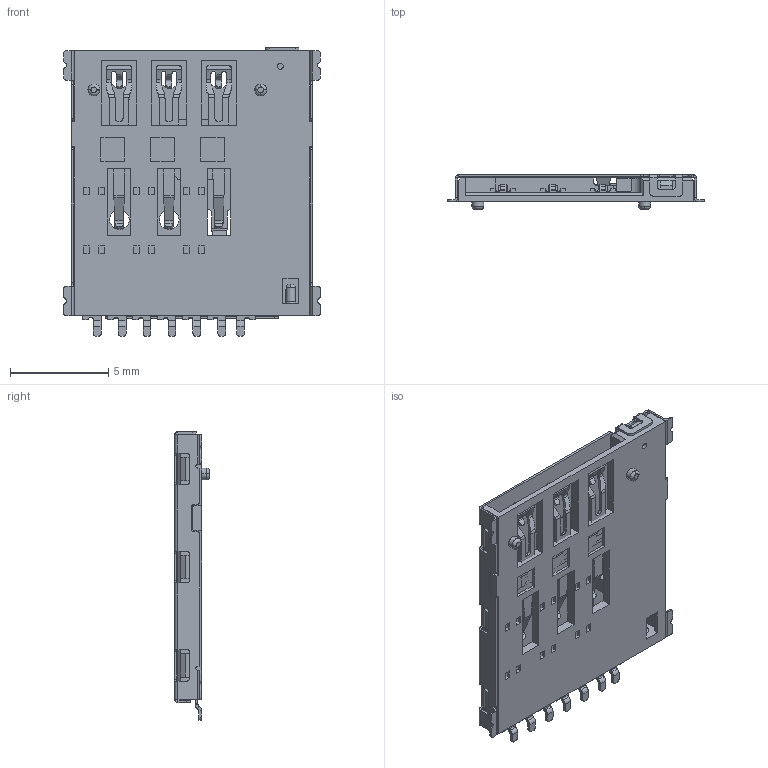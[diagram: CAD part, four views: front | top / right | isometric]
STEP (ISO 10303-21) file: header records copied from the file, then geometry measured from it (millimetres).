
FILE_DESCRIPTION(('CATIA V5 STEP Exchange'),'2;1');
FILE_NAME('F:\REF\特图电子-单阳光\2D\05-Sim Card\SIM CARD套用新图框\3D\sim-card_1050625ar003.stp','2021-09-27T09:44:13+00:00',('none'),('none'),'CATIA Version 5 Release 17 (IN-10)','CATIA V5 STEP AP203','none');
FILE_SCHEMA(('CONFIG_CONTROL_DESIGN'));
Length unit declared in the file: millimetre
Products named in the file (2): NANO_SIM_ASM; DUANZI_ASM
Assembly tree (14 placements, depth 3):
  NANO_SIM_ASM
    #56
    #14029
    #21652
    DUANZI_ASM
      #23957  x3
      #28168  x3
      #30314  x3
      #30647
Bounding box: 13.09 x 1.77 x 14.7 mm (x, y, z)
Volume: 103.3 mm3; surface area: 980.6 mm2
Topology: 14 solids, 14 shells, 1280 faces, 3321 edges, 2058 vertices
Faces by surface type: plane 812, cylinder 367, bspline 82, torus 15, cone 4
Entity records: 31640 total; most frequent: CARTESIAN_POINT 10127, ORIENTED_EDGE 4774, DIRECTION 3727, EDGE_CURVE 2387, VECTOR 1750, LINE 1750, VERTEX_POINT 1494, AXIS2_PLACEMENT_3D 1089
